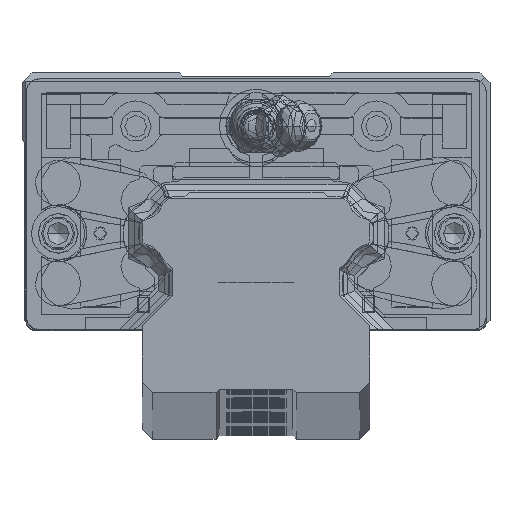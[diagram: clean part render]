
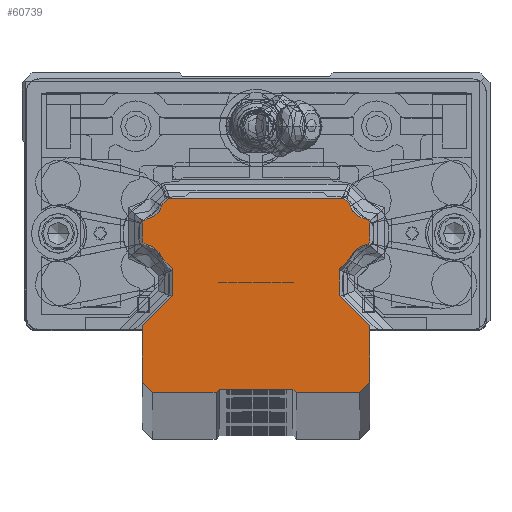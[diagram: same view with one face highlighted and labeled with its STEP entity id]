
A CAD part, top view. The second image highlights one B-rep face of the part: STEP entity #60739.
In plain terms, the highlighted planar face has unit normal (0, 0, 1).
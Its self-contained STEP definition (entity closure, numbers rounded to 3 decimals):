
#54686=DIRECTION('',(0.,-1.,0.));
#54687=VECTOR('',#54686,4.);
#54688=CARTESIAN_POINT('',(-12.5,-5.5,500.));
#54689=LINE('',#54688,#54687);
#54698=DIRECTION('',(0.,-1.,0.));
#54699=VECTOR('',#54698,8.5);
#54700=CARTESIAN_POINT('',(-17.,-14.,500.));
#54701=LINE('',#54700,#54699);
#54710=DIRECTION('',(1.,0.,0.));
#54711=VECTOR('',#54710,9.5);
#54712=CARTESIAN_POINT('',(-15.5,-24.,500.));
#54713=LINE('',#54712,#54711);
#56210=DIRECTION('',(0.,-1.,0.));
#56211=VECTOR('',#56210,2.452);
#56212=CARTESIAN_POINT('',(-17.,1.226,500.));
#56213=LINE('',#56212,#56211);
#56346=DIRECTION('',(1.,0.,0.));
#56347=VECTOR('',#56346,9.5);
#56348=CARTESIAN_POINT('',(6.,-24.,500.));
#56349=LINE('',#56348,#56347);
#56358=DIRECTION('',(0.,1.,0.));
#56359=VECTOR('',#56358,8.5);
#56360=CARTESIAN_POINT('',(17.,-22.5,500.));
#56361=LINE('',#56360,#56359);
#56370=DIRECTION('',(0.,1.,0.));
#56371=VECTOR('',#56370,4.);
#56372=CARTESIAN_POINT('',(12.5,-9.5,500.));
#56373=LINE('',#56372,#56371);
#56390=DIRECTION('',(0.,1.,0.));
#56391=VECTOR('',#56390,2.452);
#56392=CARTESIAN_POINT('',(17.,-1.226,500.));
#56393=LINE('',#56392,#56391);
#56406=CARTESIAN_POINT('',(-17.018,-5.018,500.));
#56407=DIRECTION('',(0.,0.,1.));
#56408=DIRECTION('',(0.951,0.31,0.));
#56409=AXIS2_PLACEMENT_3D('',#56406,#56407,#56408);
#56411=CARTESIAN_POINT('',(-16.35,-1.226,500.));
#56412=DIRECTION('',(0.,0.,-1.));
#56413=DIRECTION('',(-0.173,-0.985,0.));
#56414=AXIS2_PLACEMENT_3D('',#56411,#56412,#56413);
#56416=CARTESIAN_POINT('',(-16.35,1.226,500.));
#56417=DIRECTION('',(0.,0.,-1.));
#56418=DIRECTION('',(-1.,0.,0.));
#56419=AXIS2_PLACEMENT_3D('',#56416,#56417,#56418);
#56421=CARTESIAN_POINT('',(-17.018,5.018,500.));
#56422=DIRECTION('',(0.,0.,1.));
#56423=DIRECTION('',(0.173,-0.985,0.));
#56424=AXIS2_PLACEMENT_3D('',#56421,#56422,#56423);
#56426=DIRECTION('',(0.707,0.707,0.));
#56427=VECTOR('',#56426,1.158);
#56428=CARTESIAN_POINT('',(-13.929,4.181,500.));
#56429=LINE('',#56428,#56427);
#56430=DIRECTION('',(1.,0.,0.));
#56431=VECTOR('',#56430,26.22);
#56432=CARTESIAN_POINT('',(-13.11,5.,500.));
#56433=LINE('',#56432,#56431);
#56434=DIRECTION('',(0.707,-0.707,0.));
#56435=VECTOR('',#56434,1.158);
#56436=CARTESIAN_POINT('',(13.11,5.,500.));
#56437=LINE('',#56436,#56435);
#56438=CARTESIAN_POINT('',(17.018,5.018,500.));
#56439=DIRECTION('',(0.,0.,1.));
#56440=DIRECTION('',(-0.965,-0.261,0.));
#56441=AXIS2_PLACEMENT_3D('',#56438,#56439,#56440);
#56443=CARTESIAN_POINT('',(16.35,1.226,500.));
#56444=DIRECTION('',(0.,0.,-1.));
#56445=DIRECTION('',(0.173,0.985,0.));
#56446=AXIS2_PLACEMENT_3D('',#56443,#56444,#56445);
#56448=CARTESIAN_POINT('',(16.35,-1.226,500.));
#56449=DIRECTION('',(0.,0.,-1.));
#56450=DIRECTION('',(1.,0.,0.));
#56451=AXIS2_PLACEMENT_3D('',#56448,#56449,#56450);
#56453=CARTESIAN_POINT('',(17.018,-5.018,500.));
#56454=DIRECTION('',(0.,0.,1.));
#56455=DIRECTION('',(-0.173,0.985,0.));
#56456=AXIS2_PLACEMENT_3D('',#56453,#56454,#56455);
#56458=DIRECTION('',(-0.707,-0.707,0.));
#56459=VECTOR('',#56458,2.087);
#56460=CARTESIAN_POINT('',(13.976,-4.024,500.));
#56461=LINE('',#56460,#56459);
#56462=DIRECTION('',(0.707,-0.707,0.));
#56463=VECTOR('',#56462,6.364);
#56464=CARTESIAN_POINT('',(12.5,-9.5,500.));
#56465=LINE('',#56464,#56463);
#56466=DIRECTION('',(-0.707,-0.707,0.));
#56467=VECTOR('',#56466,2.121);
#56468=CARTESIAN_POINT('',(17.,-22.5,500.));
#56469=LINE('',#56468,#56467);
#56470=DIRECTION('',(-0.707,0.707,0.));
#56471=VECTOR('',#56470,0.707);
#56472=CARTESIAN_POINT('',(6.,-24.,500.));
#56473=LINE('',#56472,#56471);
#56474=DIRECTION('',(-1.,0.,0.));
#56475=VECTOR('',#56474,11.);
#56476=CARTESIAN_POINT('',(5.5,-23.5,500.));
#56477=LINE('',#56476,#56475);
#56478=DIRECTION('',(-0.707,-0.707,0.));
#56479=VECTOR('',#56478,0.707);
#56480=CARTESIAN_POINT('',(-5.5,-23.5,500.));
#56481=LINE('',#56480,#56479);
#56482=DIRECTION('',(-0.707,0.707,0.));
#56483=VECTOR('',#56482,2.121);
#56484=CARTESIAN_POINT('',(-15.5,-24.,500.));
#56485=LINE('',#56484,#56483);
#56486=DIRECTION('',(0.707,0.707,0.));
#56487=VECTOR('',#56486,6.364);
#56488=CARTESIAN_POINT('',(-17.,-14.,500.));
#56489=LINE('',#56488,#56487);
#56490=DIRECTION('',(-0.707,0.707,0.));
#56491=VECTOR('',#56490,2.087);
#56492=CARTESIAN_POINT('',(-12.5,-5.5,500.));
#56493=LINE('',#56492,#56491);
#57826=CARTESIAN_POINT('',(-13.976,-4.024,500.));
#57827=CARTESIAN_POINT('',(-16.463,-1.866,500.));
#57828=VERTEX_POINT('',#57826);
#57829=VERTEX_POINT('',#57827);
#57830=CARTESIAN_POINT('',(-17.,-1.226,500.));
#57831=VERTEX_POINT('',#57830);
#57832=CARTESIAN_POINT('',(-17.,1.226,500.));
#57833=VERTEX_POINT('',#57832);
#57834=CARTESIAN_POINT('',(-16.463,1.866,500.));
#57835=VERTEX_POINT('',#57834);
#57836=CARTESIAN_POINT('',(-13.929,4.181,500.));
#57837=VERTEX_POINT('',#57836);
#57838=CARTESIAN_POINT('',(-13.11,5.,500.));
#57839=VERTEX_POINT('',#57838);
#57840=CARTESIAN_POINT('',(13.11,5.,500.));
#57841=VERTEX_POINT('',#57840);
#57894=CARTESIAN_POINT('',(13.929,4.181,500.));
#57895=VERTEX_POINT('',#57894);
#57896=CARTESIAN_POINT('',(16.463,1.866,500.));
#57897=VERTEX_POINT('',#57896);
#57898=CARTESIAN_POINT('',(17.,1.226,500.));
#57899=VERTEX_POINT('',#57898);
#57900=CARTESIAN_POINT('',(17.,-1.226,500.));
#57901=VERTEX_POINT('',#57900);
#57902=CARTESIAN_POINT('',(16.463,-1.866,500.));
#57903=VERTEX_POINT('',#57902);
#57904=CARTESIAN_POINT('',(13.976,-4.024,500.));
#57905=VERTEX_POINT('',#57904);
#57906=CARTESIAN_POINT('',(12.5,-5.5,500.));
#57907=VERTEX_POINT('',#57906);
#57908=CARTESIAN_POINT('',(12.5,-9.5,500.));
#57909=VERTEX_POINT('',#57908);
#57910=CARTESIAN_POINT('',(17.,-14.,500.));
#57911=VERTEX_POINT('',#57910);
#57912=CARTESIAN_POINT('',(17.,-22.5,500.));
#57913=VERTEX_POINT('',#57912);
#57914=CARTESIAN_POINT('',(15.5,-24.,500.));
#57915=VERTEX_POINT('',#57914);
#57916=CARTESIAN_POINT('',(6.,-24.,500.));
#57917=VERTEX_POINT('',#57916);
#57918=CARTESIAN_POINT('',(5.5,-23.5,500.));
#57919=VERTEX_POINT('',#57918);
#57920=CARTESIAN_POINT('',(-5.5,-23.5,500.));
#57921=VERTEX_POINT('',#57920);
#57974=CARTESIAN_POINT('',(-6.,-24.,500.));
#57975=VERTEX_POINT('',#57974);
#57976=CARTESIAN_POINT('',(-15.5,-24.,500.));
#57977=VERTEX_POINT('',#57976);
#57978=CARTESIAN_POINT('',(-17.,-22.5,500.));
#57979=VERTEX_POINT('',#57978);
#57980=CARTESIAN_POINT('',(-17.,-14.,500.));
#57981=VERTEX_POINT('',#57980);
#57982=CARTESIAN_POINT('',(-12.5,-9.5,500.));
#57983=VERTEX_POINT('',#57982);
#57984=CARTESIAN_POINT('',(-12.5,-5.5,500.));
#57985=VERTEX_POINT('',#57984);
#60704=CARTESIAN_POINT('',(0.,0.,500.));
#60705=DIRECTION('',(0.,0.,1.));
#60706=DIRECTION('',(1.,0.,0.));
#60707=AXIS2_PLACEMENT_3D('',#60704,#60705,#60706);
#60708=PLANE('',#60707);
#60709=ORIENTED_EDGE('',*,*,#58749,.T.);
#60710=ORIENTED_EDGE('',*,*,#60469,.T.);
#60711=ORIENTED_EDGE('',*,*,#60455,.F.);
#60712=ORIENTED_EDGE('',*,*,#60440,.T.);
#60713=ORIENTED_EDGE('',*,*,#60425,.T.);
#60714=ORIENTED_EDGE('',*,*,#60410,.T.);
#60715=ORIENTED_EDGE('',*,*,#59244,.T.);
#60716=ORIENTED_EDGE('',*,*,#60699,.T.);
#60717=ORIENTED_EDGE('',*,*,#60686,.T.);
#60718=ORIENTED_EDGE('',*,*,#60672,.T.);
#60719=ORIENTED_EDGE('',*,*,#60658,.F.);
#60720=ORIENTED_EDGE('',*,*,#60644,.T.);
#60721=ORIENTED_EDGE('',*,*,#60630,.T.);
#60722=ORIENTED_EDGE('',*,*,#60616,.T.);
#60723=ORIENTED_EDGE('',*,*,#60602,.F.);
#60724=ORIENTED_EDGE('',*,*,#60588,.T.);
#60725=ORIENTED_EDGE('',*,*,#60574,.F.);
#60726=ORIENTED_EDGE('',*,*,#60560,.T.);
#60727=ORIENTED_EDGE('',*,*,#60546,.F.);
#60728=ORIENTED_EDGE('',*,*,#60532,.T.);
#60729=ORIENTED_EDGE('',*,*,#58869,.T.);
#60730=ORIENTED_EDGE('',*,*,#58854,.T.);
#60731=ORIENTED_EDGE('',*,*,#58839,.F.);
#60732=ORIENTED_EDGE('',*,*,#58824,.T.);
#60733=ORIENTED_EDGE('',*,*,#58809,.F.);
#60734=ORIENTED_EDGE('',*,*,#58794,.T.);
#60735=ORIENTED_EDGE('',*,*,#58779,.F.);
#60736=ORIENTED_EDGE('',*,*,#58764,.T.);
#60737=EDGE_LOOP('',(#60709,#60710,#60711,#60712,#60713,#60714,#60715,#60716,
#60717,#60718,#60719,#60720,#60721,#60722,#60723,#60724,#60725,#60726,#60727,
#60728,#60729,#60730,#60731,#60732,#60733,#60734,#60735,#60736));
#60738=FACE_OUTER_BOUND('',#60737,.F.);
#60739=ADVANCED_FACE('',(#60738),#60708,.T.);
#56410=CIRCLE('',#56409,3.2);
#56415=CIRCLE('',#56414,0.65);
#56420=CIRCLE('',#56419,0.65);
#56425=CIRCLE('',#56424,3.2);
#56442=CIRCLE('',#56441,3.2);
#56447=CIRCLE('',#56446,0.65);
#56452=CIRCLE('',#56451,0.65);
#56457=CIRCLE('',#56456,3.2);
#58749=EDGE_CURVE('',#57828,#57829,#56410,.T.);
#58764=EDGE_CURVE('',#57985,#57828,#56493,.T.);
#58779=EDGE_CURVE('',#57985,#57983,#54689,.T.);
#58794=EDGE_CURVE('',#57981,#57983,#56489,.T.);
#58809=EDGE_CURVE('',#57981,#57979,#54701,.T.);
#58824=EDGE_CURVE('',#57977,#57979,#56485,.T.);
#58839=EDGE_CURVE('',#57977,#57975,#54713,.T.);
#58854=EDGE_CURVE('',#57921,#57975,#56481,.T.);
#58869=EDGE_CURVE('',#57919,#57921,#56477,.T.);
#59244=EDGE_CURVE('',#57839,#57841,#56433,.T.);
#60410=EDGE_CURVE('',#57837,#57839,#56429,.T.);
#60425=EDGE_CURVE('',#57835,#57837,#56425,.T.);
#60440=EDGE_CURVE('',#57833,#57835,#56420,.T.);
#60455=EDGE_CURVE('',#57833,#57831,#56213,.T.);
#60469=EDGE_CURVE('',#57829,#57831,#56415,.T.);
#60532=EDGE_CURVE('',#57917,#57919,#56473,.T.);
#60546=EDGE_CURVE('',#57917,#57915,#56349,.T.);
#60560=EDGE_CURVE('',#57913,#57915,#56469,.T.);
#60574=EDGE_CURVE('',#57913,#57911,#56361,.T.);
#60588=EDGE_CURVE('',#57909,#57911,#56465,.T.);
#60602=EDGE_CURVE('',#57909,#57907,#56373,.T.);
#60616=EDGE_CURVE('',#57905,#57907,#56461,.T.);
#60630=EDGE_CURVE('',#57903,#57905,#56457,.T.);
#60644=EDGE_CURVE('',#57901,#57903,#56452,.T.);
#60658=EDGE_CURVE('',#57901,#57899,#56393,.T.);
#60672=EDGE_CURVE('',#57897,#57899,#56447,.T.);
#60686=EDGE_CURVE('',#57895,#57897,#56442,.T.);
#60699=EDGE_CURVE('',#57841,#57895,#56437,.T.);
